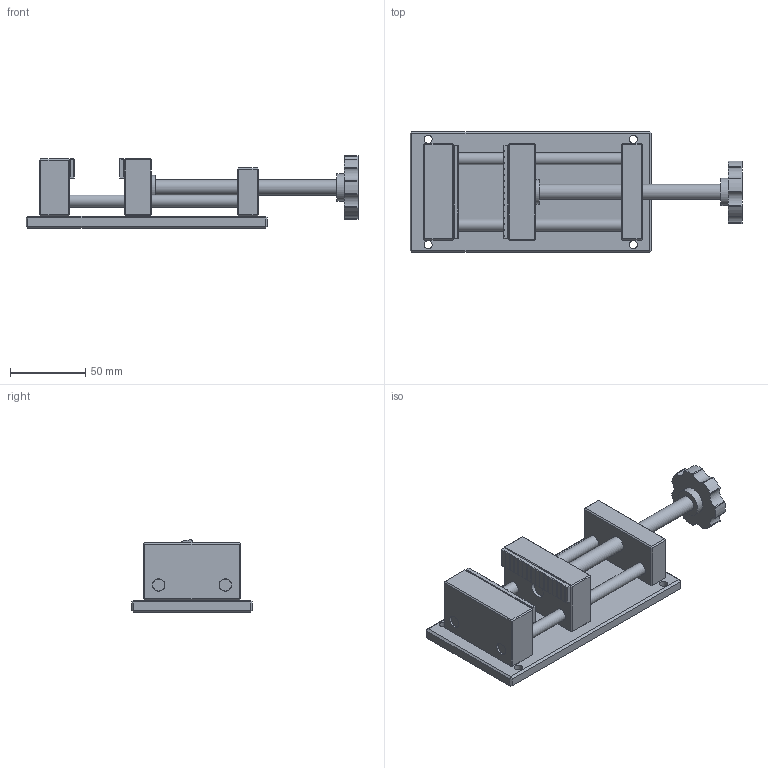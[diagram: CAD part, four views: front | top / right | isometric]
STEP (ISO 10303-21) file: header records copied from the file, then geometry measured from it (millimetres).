
FILE_DESCRIPTION(('Open CASCADE Model'),'2;1');
FILE_NAME('Open CASCADE Shape Model','2026-09-09T12:51:52',('Author'),( 'Open CASCADE'),'Open CASCADE STEP processor 7.9','Open CASCADE 7.9' ,'Unknown');
FILE_SCHEMA(('AUTOMOTIVE_DESIGN { 1 0 10303 214 1 1 1 1 }'));
Length unit declared in the file: millimetre
Products named in the file (10): Twin_rail_bench_vise; frame; moving_jaw; fixed_pad; moving_pad; guide_front; guide_rear; drive_nut; spindle; handwheel
Assembly tree (9 placements, depth 2):
  Twin_rail_bench_vise
    frame
    moving_jaw
    fixed_pad
    moving_pad
    guide_front
    guide_rear
    drive_nut
    spindle
    handwheel
Bounding box: 220 x 80 x 47.99 mm (x, y, z)
Volume: 254972.8 mm3; surface area: 74168.5 mm2
Topology: 9 solids, 9 shells, 408 faces, 1008 edges, 624 vertices
Faces by surface type: plane 360, cylinder 34, bspline 14
Full cylindrical faces by diameter (mm): 5.4 x4, 8 x2, 8.2 x4, 8.5 x2, 10 x2, 10.4 x1, 10.5 x1, 10.6 x2, 16 x1, 18 x1
Entity records: 25571 total; most frequent: CARTESIAN_POINT 6484, DIRECTION 2985, ORIENTED_EDGE 2016, LINE 2016, VECTOR 2016, PCURVE 2016, DEFINITIONAL_REPRESENTATION 2016, EDGE_CURVE 1008
